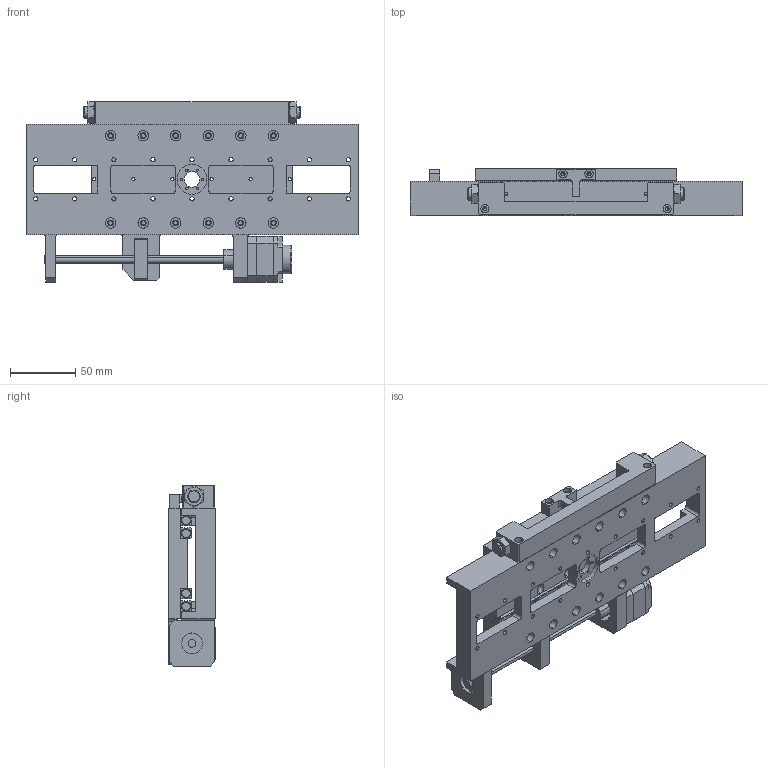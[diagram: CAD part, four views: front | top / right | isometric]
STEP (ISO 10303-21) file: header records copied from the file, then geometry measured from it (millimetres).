
FILE_DESCRIPTION (( 'STEP AP214' ), '1' );
FILE_NAME ('VSM17-X-100-LS.STEP', '2022-12-15T13:55:34', ( '' ), ( '' ), 'SwSTEP 2.0', 'SolidWorks 2022', '' );
FILE_SCHEMA (( 'AUTOMOTIVE_DESIGN' ));
Length unit declared in the file: millimetre
Products named in the file (12): Simplified Motor; VSM17-X-100-LS; Simplified VSM17-X-100 Carriage; Simplified Leadscrew Nut; 3-8 UNF Nut; Simplified VSM17-X LS Actuator; Simplified Limit Switch; Simplified VSM17-X-100 Limit switch mounting block; Cap Head M4x12.VentSLDPRT; Simplified Roller Bearing 100; Simplified VSM17-X-100 Base V2; Simplified Drivetrain
Assembly tree (27 placements, depth 2):
  VSM17-X-100-LS
    Simplified VSM17-X-100 Base V2
    Simplified Motor
    Simplified Drivetrain
    Simplified Roller Bearing 100  x4
    Simplified VSM17-X-100 Carriage
    Simplified Leadscrew Nut
    Simplified VSM17-X-100 Limit switch mounting block
    Simplified Limit Switch  x2
    3-8 UNF Nut  x2
    Simplified VSM17-X LS Actuator
    Cap Head M4x12.VentSLDPRT  x12
Bounding box: 255 x 36 x 138.95 mm (x, y, z)
Volume: 514183.5 mm3; surface area: 178386.9 mm2
Topology: 27 solids, 27 shells, 1289 faces, 3132 edges, 1974 vertices
Faces by surface type: cylinder 540, plane 535, cone 146, torus 68
Entity records: 24449 total; most frequent: DIRECTION 4092, CARTESIAN_POINT 3928, ORIENTED_EDGE 3604, EDGE_CURVE 1802, AXIS2_PLACEMENT_3D 1568, VERTEX_POINT 1178, EDGE_LOOP 984, VECTOR 956
